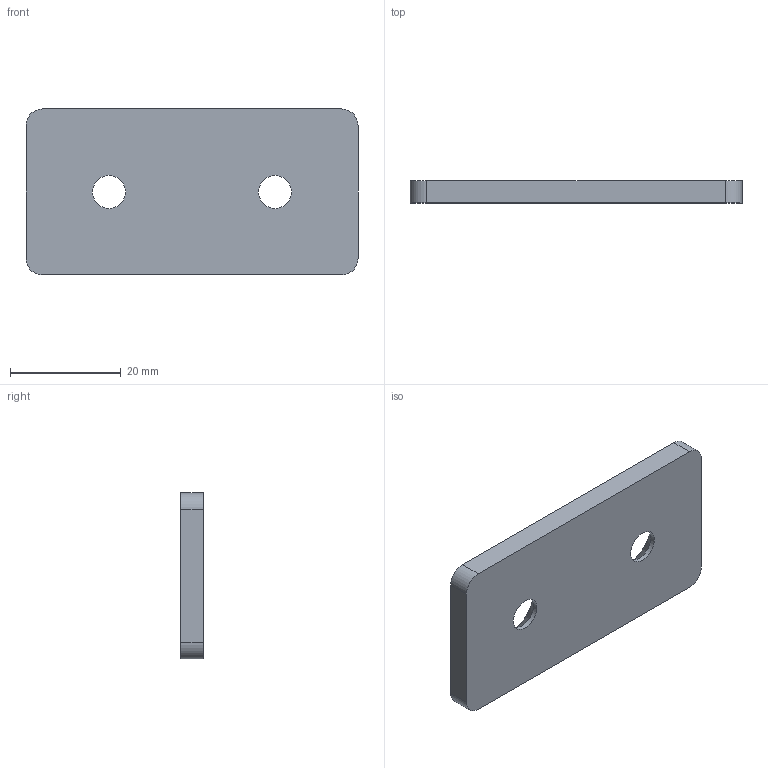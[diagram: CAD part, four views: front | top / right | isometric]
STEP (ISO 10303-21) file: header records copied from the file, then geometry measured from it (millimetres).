
FILE_DESCRIPTION( ( 'STEP AP203' ), '1' );
FILE_NAME( 'C:/Temp/Ganter_Step_05_03_2020/data/3_7/gn_967/gn_967_1/gn_967_1_f/Shackle GN 967-30-60-F-1-SR.stp', '2020-03-12T14:48:19', ( 'License CC BY-ND 4.0' ), ( 'CADENAS' ), ' ', 'PARTsolutions', ' ' );
FILE_SCHEMA( ( 'CONFIG_CONTROL_DESIGN' ) );
Length unit declared in the file: millimetre
Products named in the file (1): _Shackle GN 967-30-60-F-1-SR
Bounding box: 60 x 4 x 30 mm (x, y, z)
Volume: 6690.4 mm3; surface area: 4277.9 mm2
Topology: 1 solids, 1 shells, 14 faces, 34 edges, 22 vertices
Faces by surface type: plane 6, cylinder 6, cone 2
Full cylindrical faces by diameter (mm): 6 x2
Entity records: 448 total; most frequent: DIRECTION 74, CARTESIAN_POINT 67, ORIENTED_EDGE 60, EDGE_CURVE 30, AXIS2_PLACEMENT_3D 29, EDGE_LOOP 22, VERTEX_POINT 22, FACE_OUTER_BOUND 16
